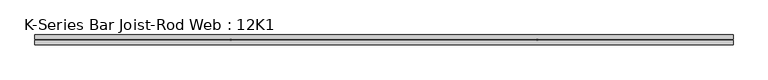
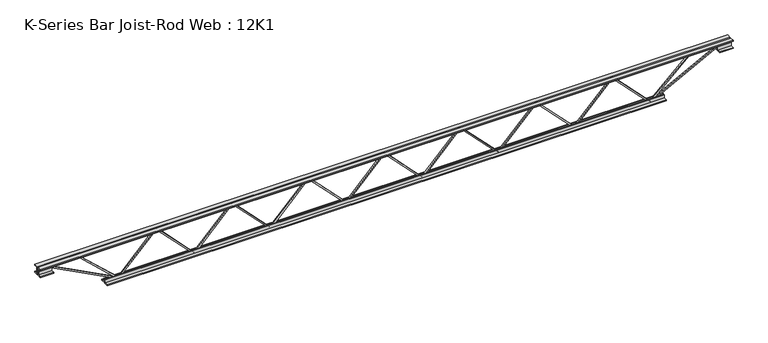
"""IFC4 building model written with IfcOpenShell, lengths in millimetres: beam geometry, K-Series Bar Joist-Rod Web : 12K1."""

from ifc_helpers import new_model, si_unit, frame, origin, place, context, project, spatial, polyline, outline, extrude, source, transform, mapped, element, save


def k_series_bar_joist_rod_web_12k1_8968bb53(model_context):
    return source(origin(), model_context, "Body", "SweptSolid", [
        extrude(outline(polyline([(-141.2875, 866.0946429), (-150.8125, 866.0946429), (-150.8125, 871.2898582), (141.2875, 1153.6380724), (141.2875, 1155.9476418), (-150.8125, 1438.2958561), (-150.8125, 1443.4910714), (-141.2875, 1443.4910714), (-141.2875, 1442.3362867), (150.8125, 1159.9880724), (150.8125, 1149.5976418), (-141.2875, 867.2494276), (-141.2875, 866.0946429)])), frame((0.0, -4.7625, 0.0), z_axis=(0.0, 1.0, 0.0), x_axis=(0.0, 0.0, 1.0)), (0.0, 0.0, 1.0), 9.525),
        extrude(outline(polyline([(-141.2875, 288.6982143), (-150.8125, 288.6982143), (-150.8125, 293.8934296), (141.2875, 576.2416439), (141.2875, 578.5512133), (-150.8125, 860.8994276), (-150.8125, 866.0946429), (-141.2875, 866.0946429), (-141.2875, 864.9398582), (150.8125, 582.5916439), (150.8125, 572.2012133), (-141.2875, 289.852999), (-141.2875, 288.6982143)])), frame((0.0, -4.7625, 0.0), z_axis=(0.0, 1.0, 0.0), x_axis=(0.0, 0.0, 1.0)), (0.0, 0.0, 1.0), 9.525),
        extrude(outline(polyline([(-141.2875, -288.6982143), (-150.8125, -288.6982143), (-150.8125, -283.502999), (141.2875, -1.1547847), (141.2875, 1.1547847), (-150.8125, 283.502999), (-150.8125, 288.6982143), (-141.2875, 288.6982143), (-141.2875, 287.5434296), (150.8125, 5.1952153), (150.8125, -5.1952153), (-141.2875, -287.5434296), (-141.2875, -288.6982143)])), frame((0.0, -4.7625, 0.0), z_axis=(0.0, 1.0, 0.0), x_axis=(0.0, 0.0, 1.0)), (0.0, 0.0, 1.0), 9.525),
        extrude(outline(polyline([(-141.2875, -866.0946429), (-150.8125, -866.0946429), (-150.8125, -860.8994276), (141.2875, -578.5512133), (141.2875, -576.2416439), (-150.8125, -293.8934296), (-150.8125, -288.6982143), (-141.2875, -288.6982143), (-141.2875, -289.852999), (150.8125, -572.2012133), (150.8125, -582.5916439), (-141.2875, -864.9398582), (-141.2875, -866.0946429)])), frame((0.0, -4.7625, 0.0), z_axis=(0.0, 1.0, 0.0), x_axis=(0.0, 0.0, 1.0)), (0.0, 0.0, 1.0), 9.525),
        extrude(outline(polyline([(-141.2875, -1443.4910714), (-150.8125, -1443.4910714), (-150.8125, -1438.2958561), (141.2875, -1155.9476418), (141.2875, -1153.6380724), (-150.8125, -871.2898582), (-150.8125, -866.0946429), (-141.2875, -866.0946429), (-141.2875, -867.2494276), (150.8125, -1149.5976418), (150.8125, -1159.9880724), (-141.2875, -1442.3362867), (-141.2875, -1443.4910714)])), frame((0.0, -4.7625, 0.0), z_axis=(0.0, 1.0, 0.0), x_axis=(0.0, 0.0, 1.0)), (0.0, 0.0, 1.0), 9.525),
        extrude(outline(polyline([(-141.2875, 1443.4910714), (-150.8125, 1443.4910714), (-150.8125, 1448.6862867), (141.2875, 1731.034501), (141.2875, 1733.3440704), (-150.8125, 2015.6922847), (-150.8125, 2020.8875), (-141.2875, 2020.8875), (-141.2875, 2019.7327153), (150.8125, 1737.384501), (150.8125, 1726.9940704), (-141.2875, 1444.6458561), (-141.2875, 1443.4910714)])), frame((0.0, -4.7625, 0.0), z_axis=(0.0, 1.0, 0.0), x_axis=(0.0, 0.0, 1.0)), (0.0, 0.0, 1.0), 9.525),
        extrude(outline(polyline([(-141.2875, -2020.8875), (-150.8125, -2020.8875), (-150.8125, -2015.6922847), (141.2875, -1733.3440704), (141.2875, -1731.034501), (-150.8125, -1448.6862867), (-150.8125, -1443.4910714), (-141.2875, -1443.4910714), (-141.2875, -1444.6458561), (150.8125, -1726.9940704), (150.8125, -1737.384501), (-141.2875, -2019.7327153), (-141.2875, -2020.8875)])), frame((0.0, -4.7625, 0.0), z_axis=(0.0, 1.0, 0.0), x_axis=(0.0, 0.0, 1.0)), (0.0, 0.0, 1.0), 9.525),
        extrude(outline(polyline([(4.7625, 152.4), (36.5125, 152.4), (36.5125, 146.05), (11.1125, 146.05), (11.1125, 120.65), (4.7625, 120.65), (4.7625, 152.4)])), frame((-2630.4875, 0.0, 0.0), z_axis=(1.0, 0.0, 0.0), x_axis=(0.0, 1.0, 0.0)), (0.0, 0.0, 1.0), 5260.975),
        extrude(outline(polyline([(-4.7625, 152.4), (-4.7625, 120.65), (-11.1125, 120.65), (-11.1125, 146.05), (-36.5125, 146.05), (-36.5125, 152.4), (-4.7625, 152.4)])), frame((-2630.4875, 0.0, 0.0), z_axis=(1.0, 0.0, 0.0), x_axis=(0.0, 1.0, 0.0)), (0.0, 0.0, 1.0), 5260.975),
        extrude(outline(polyline([(-4.7625, 88.9), (-36.5125, 88.9), (-36.5125, 95.25), (-11.1125, 95.25), (-11.1125, 120.65), (-4.7625, 120.65), (-4.7625, 88.9)])), frame((-2630.4875, 0.0, 0.0), z_axis=(1.0, 0.0, 0.0), x_axis=(0.0, 1.0, 0.0)), (0.0, 0.0, 1.0), 101.6),
        extrude(outline(polyline([(36.5125, 88.9), (4.7625, 88.9), (4.7625, 120.65), (11.1125, 120.65), (11.1125, 95.25), (36.5125, 95.25), (36.5125, 88.9)])), frame((-2630.4875, 0.0, 0.0), z_axis=(1.0, 0.0, 0.0), x_axis=(0.0, 1.0, 0.0)), (0.0, 0.0, 1.0), 101.6),
        extrude(outline(polyline([(4.7625, 88.9), (4.7625, 120.65), (11.1125, 120.65), (11.1125, 95.25), (36.5125, 95.25), (36.5125, 88.9), (4.7625, 88.9)])), frame((2528.8875, 0.0, 0.0), z_axis=(1.0, 0.0, 0.0), x_axis=(0.0, 1.0, 0.0)), (0.0, 0.0, 1.0), 101.6),
        extrude(outline(polyline([(-4.7625, 88.9), (-36.5125, 88.9), (-36.5125, 95.25), (-11.1125, 95.25), (-11.1125, 120.65), (-4.7625, 120.65), (-4.7625, 88.9)])), frame((2528.8875, 0.0, 0.0), z_axis=(1.0, 0.0, 0.0), x_axis=(0.0, 1.0, 0.0)), (0.0, 0.0, 1.0), 101.6),
        extrude(outline(polyline([(4.7625, -152.4), (4.7625, -120.65), (11.1125, -120.65), (11.1125, -146.05), (36.5125, -146.05), (36.5125, -152.4), (4.7625, -152.4)])), frame((-2122.4875, 0.0, 0.0), z_axis=(1.0, 0.0, 0.0), x_axis=(0.0, 1.0, 0.0)), (0.0, 0.0, 1.0), 4244.975),
        extrude(outline(polyline([(-4.7625, -152.4), (-36.5125, -152.4), (-36.5125, -146.05), (-11.1125, -146.05), (-11.1125, -120.65), (-4.7625, -120.65), (-4.7625, -152.4)])), frame((-2122.4875, 0.0, 0.0), z_axis=(1.0, 0.0, 0.0), x_axis=(0.0, 1.0, 0.0)), (0.0, 0.0, 1.0), 4244.975),
        extrude(outline(polyline([(0.0, -9.525), (0.0, 0.0), (573.7533355, 0.0), (573.7533355, -9.525), (0.0, -9.525)])), frame((-2531.1012714, 4.7625, 116.4332925), z_axis=(0.4648338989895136, 0.0, 0.8853979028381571), x_axis=(0.8853979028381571, 0.0, -0.4648338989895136)), (0.0, 0.0, 1.0), 9.525),
        extrude(outline(polyline([(0.0, -9.525), (0.0, 0.0), (393.0337758, 0.0), (393.0337758, -9.525), (0.0, -9.525)])), frame((-2312.8173927, 4.7625, 117.1517631), z_axis=(0.6785676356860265, 0.0, 0.7345379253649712), x_axis=(0.7345379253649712, 0.0, -0.6785676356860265)), (0.0, 0.0, 1.0), 9.525),
        extrude(outline(polyline([(0.0, -9.525), (0.0, 0.0), (573.7533355, 0.0), (573.7533355, -9.525), (0.0, -9.525)])), frame((2531.1012714, -4.7625, 116.4332925), z_axis=(-0.4648338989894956, 0.0, 0.8853979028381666), x_axis=(-0.8853979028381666, 0.0, -0.4648338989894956)), (0.0, 0.0, 1.0), 9.525),
        extrude(outline(polyline([(0.0, -9.525), (0.0, 0.0), (393.0337758, 0.0), (393.0337758, -9.525), (0.0, -9.525)])), frame((2312.8173927, -4.7625, 117.1517631), z_axis=(-0.6785676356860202, 0.0, 0.7345379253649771), x_axis=(-0.7345379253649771, 0.0, -0.6785676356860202)), (0.0, 0.0, 1.0), 9.525),
    ])


if __name__ == "__main__":
    model = new_model("IFC4")
    model_context = context("Model", 3, world=origin())
    ifc_project = project(units=[si_unit("LENGTHUNIT", "METRE", prefix="MILLI")], contexts=[model_context])
    site = spatial("IfcSite", under=ifc_project)
    building = spatial("IfcBuilding", under=site)
    placement = place(None, origin())
    k_series_bar_joist_rod_web_12k1_shape = k_series_bar_joist_rod_web_12k1_8968bb53(model_context)
    element("IfcBeam", 1, ObjectType="K-Series Bar Joist-Rod Web : 12K1", at=placement, inside=building, context=model_context, shape_type="MappedRepresentation", body=[
        mapped(k_series_bar_joist_rod_web_12k1_shape, transform((0.0, 0.0, 0.0), x_axis=(1.0, 0.0, 0.0), y_axis=(0.0, 1.0, 0.0), z_axis=(0.0, 0.0, 1.0))),
    ])
    save(model, "model.ifc")
